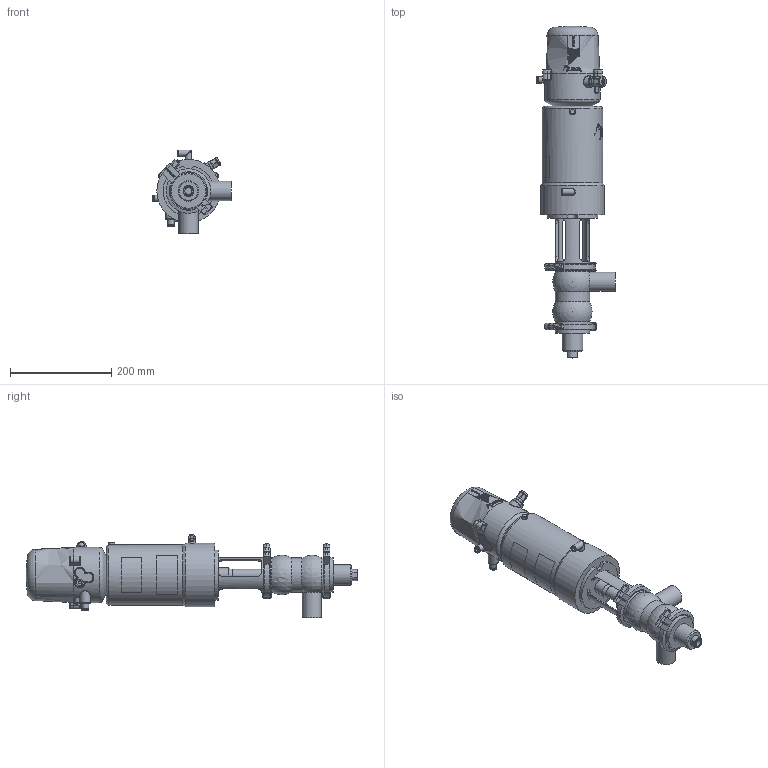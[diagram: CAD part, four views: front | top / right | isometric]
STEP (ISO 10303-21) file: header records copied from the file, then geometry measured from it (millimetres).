
FILE_DESCRIPTION (( 'STEP AP214' ), '1' );
FILE_NAME ('INNOVA S DB-90 W OD 1½ & C-TOP S_10.251.16.0018.STEP', '2024-08-19T10:16:20', ( '' ), ( '' ), 'SwSTEP 2.0', 'SolidWorks 2023', '' );
FILE_SCHEMA (( 'AUTOMOTIVE_DESIGN' ));
Length unit declared in the file: millimetre
Products named in the file (7): 10.251.15.0002_DN 1½"; 10.251.15.0010_OD 1½"; 10.426.15.0001_C-TOP S - 1 EV; 10.251.15.0001_OD 1½"; INNOVA S DB-90 W OD 1½ & C-TOP S_10.251.16.0018; 10.250.15.0002_Type S T1; 10.240.15.0001_DN 040
Assembly tree (7 placements, depth 2):
  INNOVA S DB-90 W OD 1½ & C-TOP S_10.251.16.0018
    10.251.15.0001_OD 1½"
    10.250.15.0002_Type S T1
    10.426.15.0001_C-TOP S - 1 EV
    10.251.15.0010_OD 1½"
    10.240.15.0001_DN 040  x2
    10.251.15.0002_DN 1½"
Bounding box: 156 x 656.2 x 166 mm (x, y, z)
Volume: 4707830.6 mm3; surface area: 347217 mm2
Topology: 7 solids, 7 shells, 1186 faces, 2864 edges, 1902 vertices
Faces by surface type: plane 413, cylinder 370, cone 202, bspline 160, torus 33, sphere 8
Full cylindrical faces by diameter (mm): 0.371 x17, 0.512 x16, 0.658 x16, 0.795 x16, 0.94 x15, 1.098 x15, 1.241 x13, 1.382 x13, 1.523 x11, 1.669 x10, 2.201 x1, 4.2 x2, 5 x1, 5.5 x2, 6 x3, 6.15 x1, 8 x5, 8.5 x1, 10 x1, 10.5 x2, 11 x2, 12.5 x6, 13 x2, 13.5 x2, 14 x1, 17 x3, 20 x2, 22 x2, 23 x1, 28 x1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
Entity records: 58182 total; most frequent: CARTESIAN_POINT 27431, ORIENTED_EDGE 4592, DIRECTION 3699, EDGE_CURVE 2296, VERTEX_POINT 1624, EDGE_LOOP 1578, AXIS2_PLACEMENT_3D 1507, FACE_OUTER_BOUND 1340
